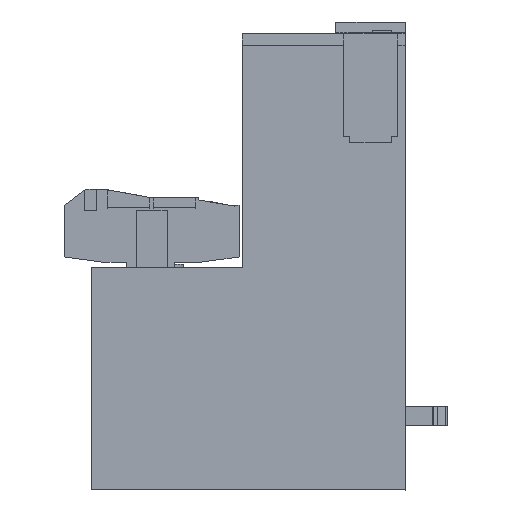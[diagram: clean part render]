
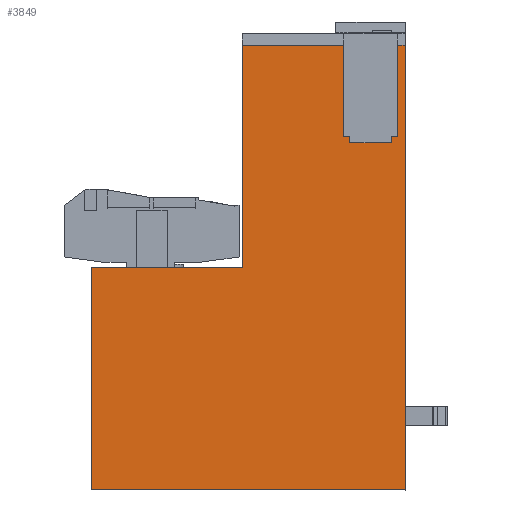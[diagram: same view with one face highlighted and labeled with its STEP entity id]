
A CAD part, front view. The second image highlights one B-rep face of the part: STEP entity #3849.
In plain terms, the highlighted planar face has unit normal (0, -1, 0).
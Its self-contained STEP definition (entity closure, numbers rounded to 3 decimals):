
#3826=AXIS2_PLACEMENT_3D('Plane Axis2P3D',#3823,#3824,#3825) ;
#91=CARTESIAN_POINT('Vertex',(0.,0.,0.)) ;
#94=CARTESIAN_POINT('Line Origine',(0.,0.,18.383)) ;
#98=CARTESIAN_POINT('Vertex',(0.,0.,36.765)) ;
#166=CARTESIAN_POINT('Line Origine',(25.,0.,55.166)) ;
#170=CARTESIAN_POINT('Vertex',(25.,0.,36.765)) ;
#172=CARTESIAN_POINT('Vertex',(25.,0.,73.566)) ;
#258=CARTESIAN_POINT('Vertex',(52.,0.,0.)) ;
#261=CARTESIAN_POINT('Line Origine',(26.,0.,0.)) ;
#327=CARTESIAN_POINT('Vertex',(52.,0.,73.566)) ;
#330=CARTESIAN_POINT('Line Origine',(52.,0.,36.783)) ;
#1633=CARTESIAN_POINT('Vertex',(50.7,0.,58.5)) ;
#1636=CARTESIAN_POINT('Line Origine',(50.7,0.,66.033)) ;
#1640=CARTESIAN_POINT('Vertex',(50.7,0.,73.566)) ;
#1661=CARTESIAN_POINT('Line Origine',(50.2,0.,58.5)) ;
#1665=CARTESIAN_POINT('Vertex',(49.7,0.,58.5)) ;
#1693=CARTESIAN_POINT('Line Origine',(49.7,0.,58.)) ;
#1697=CARTESIAN_POINT('Vertex',(49.7,0.,57.5)) ;
#1725=CARTESIAN_POINT('Line Origine',(46.25,0.,57.5)) ;
#1729=CARTESIAN_POINT('Vertex',(42.8,0.,57.5)) ;
#1757=CARTESIAN_POINT('Line Origine',(42.8,0.,58.)) ;
#1761=CARTESIAN_POINT('Vertex',(42.8,0.,58.5)) ;
#1789=CARTESIAN_POINT('Line Origine',(42.3,0.,58.5)) ;
#1793=CARTESIAN_POINT('Vertex',(41.8,0.,58.5)) ;
#1821=CARTESIAN_POINT('Line Origine',(41.8,0.,66.033)) ;
#1825=CARTESIAN_POINT('Vertex',(41.8,0.,73.566)) ;
#3503=CARTESIAN_POINT('Line Origine',(51.35,0.,73.566)) ;
#3718=CARTESIAN_POINT('Line Origine',(33.4,0.,73.566)) ;
#3823=CARTESIAN_POINT('Axis2P3D Location',(0.,0.,0.)) ;
#3828=CARTESIAN_POINT('Line Origine',(12.5,0.,36.765)) ;
#95=DIRECTION('Vector Direction',(0.,0.,1.)) ;
#167=DIRECTION('Vector Direction',(0.,0.,1.)) ;
#262=DIRECTION('Vector Direction',(-1.,0.,0.)) ;
#331=DIRECTION('Vector Direction',(0.,0.,-1.)) ;
#1637=DIRECTION('Vector Direction',(0.,0.,-1.)) ;
#1662=DIRECTION('Vector Direction',(-1.,0.,0.)) ;
#1694=DIRECTION('Vector Direction',(0.,0.,-1.)) ;
#1726=DIRECTION('Vector Direction',(-1.,0.,0.)) ;
#1758=DIRECTION('Vector Direction',(0.,0.,1.)) ;
#1790=DIRECTION('Vector Direction',(-1.,0.,0.)) ;
#1822=DIRECTION('Vector Direction',(0.,0.,1.)) ;
#3504=DIRECTION('Vector Direction',(1.,0.,0.)) ;
#3719=DIRECTION('Vector Direction',(1.,0.,0.)) ;
#3824=DIRECTION('Axis2P3D Direction',(0.,1.,0.)) ;
#3825=DIRECTION('Axis2P3D XDirection',(0.,0.,1.)) ;
#3829=DIRECTION('Vector Direction',(1.,0.,0.)) ;
#96=VECTOR('Line Direction',#95,1.) ;
#168=VECTOR('Line Direction',#167,1.) ;
#263=VECTOR('Line Direction',#262,1.) ;
#332=VECTOR('Line Direction',#331,1.) ;
#1638=VECTOR('Line Direction',#1637,1.) ;
#1663=VECTOR('Line Direction',#1662,1.) ;
#1695=VECTOR('Line Direction',#1694,1.) ;
#1727=VECTOR('Line Direction',#1726,1.) ;
#1759=VECTOR('Line Direction',#1758,1.) ;
#1791=VECTOR('Line Direction',#1790,1.) ;
#1823=VECTOR('Line Direction',#1822,1.) ;
#3505=VECTOR('Line Direction',#3504,1.) ;
#3720=VECTOR('Line Direction',#3719,1.) ;
#3830=VECTOR('Line Direction',#3829,1.) ;
#3834=ORIENTED_EDGE('',*,*,#100,.F.) ;
#3835=ORIENTED_EDGE('',*,*,#265,.F.) ;
#3836=ORIENTED_EDGE('',*,*,#334,.F.) ;
#3837=ORIENTED_EDGE('',*,*,#3507,.F.) ;
#3838=ORIENTED_EDGE('',*,*,#1642,.T.) ;
#3839=ORIENTED_EDGE('',*,*,#1667,.T.) ;
#3840=ORIENTED_EDGE('',*,*,#1699,.T.) ;
#3841=ORIENTED_EDGE('',*,*,#1731,.T.) ;
#3842=ORIENTED_EDGE('',*,*,#1763,.T.) ;
#3843=ORIENTED_EDGE('',*,*,#1795,.T.) ;
#3844=ORIENTED_EDGE('',*,*,#1827,.T.) ;
#3845=ORIENTED_EDGE('',*,*,#3722,.F.) ;
#3846=ORIENTED_EDGE('',*,*,#174,.F.) ;
#3847=ORIENTED_EDGE('',*,*,#3832,.T.) ;
#3849=ADVANCED_FACE('Housing_1',(#3848),#3827,.F.) ;
#100=EDGE_CURVE('',#92,#99,#97,.T.) ;
#174=EDGE_CURVE('',#171,#173,#169,.T.) ;
#265=EDGE_CURVE('',#259,#92,#264,.T.) ;
#334=EDGE_CURVE('',#328,#259,#333,.T.) ;
#1642=EDGE_CURVE('',#1641,#1634,#1639,.T.) ;
#1667=EDGE_CURVE('',#1634,#1666,#1664,.T.) ;
#1699=EDGE_CURVE('',#1666,#1698,#1696,.T.) ;
#1731=EDGE_CURVE('',#1698,#1730,#1728,.T.) ;
#1763=EDGE_CURVE('',#1730,#1762,#1760,.T.) ;
#1795=EDGE_CURVE('',#1762,#1794,#1792,.T.) ;
#1827=EDGE_CURVE('',#1794,#1826,#1824,.T.) ;
#3507=EDGE_CURVE('',#1641,#328,#3506,.T.) ;
#3722=EDGE_CURVE('',#173,#1826,#3721,.T.) ;
#3832=EDGE_CURVE('',#171,#99,#3831,.F.) ;
#3833=EDGE_LOOP('',(#3834,#3835,#3836,#3837,#3838,#3839,#3840,#3841,#3842,#3843,#3844,#3845,#3846,#3847)) ;
#3848=FACE_OUTER_BOUND('',#3833,.T.) ;
#97=LINE('Line',#94,#96) ;
#169=LINE('Line',#166,#168) ;
#264=LINE('Line',#261,#263) ;
#333=LINE('Line',#330,#332) ;
#1639=LINE('Line',#1636,#1638) ;
#1664=LINE('Line',#1661,#1663) ;
#1696=LINE('Line',#1693,#1695) ;
#1728=LINE('Line',#1725,#1727) ;
#1760=LINE('Line',#1757,#1759) ;
#1792=LINE('Line',#1789,#1791) ;
#1824=LINE('Line',#1821,#1823) ;
#3506=LINE('Line',#3503,#3505) ;
#3721=LINE('Line',#3718,#3720) ;
#3831=LINE('Line',#3828,#3830) ;
#3827=PLANE('',#3826) ;
#92=VERTEX_POINT('',#91) ;
#99=VERTEX_POINT('',#98) ;
#171=VERTEX_POINT('',#170) ;
#173=VERTEX_POINT('',#172) ;
#259=VERTEX_POINT('',#258) ;
#328=VERTEX_POINT('',#327) ;
#1634=VERTEX_POINT('',#1633) ;
#1641=VERTEX_POINT('',#1640) ;
#1666=VERTEX_POINT('',#1665) ;
#1698=VERTEX_POINT('',#1697) ;
#1730=VERTEX_POINT('',#1729) ;
#1762=VERTEX_POINT('',#1761) ;
#1794=VERTEX_POINT('',#1793) ;
#1826=VERTEX_POINT('',#1825) ;
